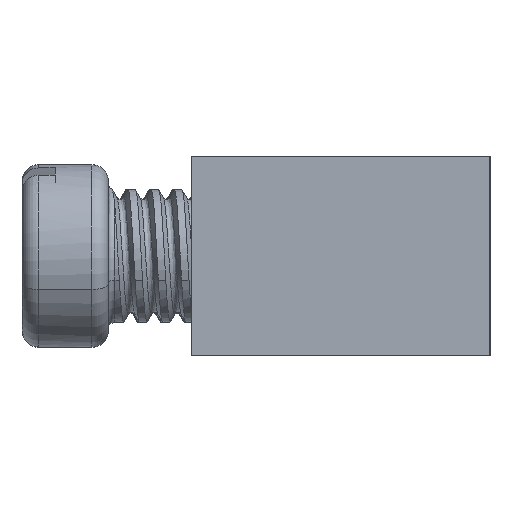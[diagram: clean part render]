
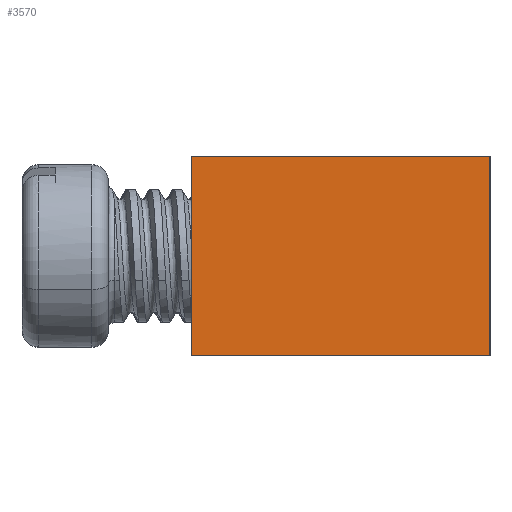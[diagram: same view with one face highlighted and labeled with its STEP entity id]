
A CAD part, left-side view. The second image highlights one B-rep face of the part: STEP entity #3570.
In plain terms, the highlighted planar face has unit normal (-1, 0, 0).
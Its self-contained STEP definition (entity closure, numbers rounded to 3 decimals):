
#140 = ORIENTED_EDGE ( 'NONE', *, *, #2012, .T. ) ;
#498 = VERTEX_POINT ( 'NONE', #5495 ) ;
#539 = CARTESIAN_POINT ( 'NONE',  ( 0., 9., -6. ) ) ;
#1386 = ORIENTED_EDGE ( 'NONE', *, *, #5901, .T. ) ;
#1826 = DIRECTION ( 'NONE',  ( 0., 0., 1. ) ) ;
#2012 = EDGE_CURVE ( 'NONE', #3413, #3670, #7014, .T. ) ;
#2273 = CARTESIAN_POINT ( 'NONE',  ( 0., 0., -6. ) ) ;
#2599 = CARTESIAN_POINT ( 'NONE',  ( 0., 0., -6. ) ) ;
#2646 = DIRECTION ( 'NONE',  ( 0., -1., 0. ) ) ;
#3367 = CARTESIAN_POINT ( 'NONE',  ( 0., 9., -6. ) ) ;
#3413 = VERTEX_POINT ( 'NONE', #539 ) ;
#3570 = ADVANCED_FACE ( 'NONE', ( #8532 ), #3809, .T. ) ;
#3601 = VECTOR ( 'NONE', #8678, 1000. ) ;
#3670 = VERTEX_POINT ( 'NONE', #9227 ) ;
#3744 = ORIENTED_EDGE ( 'NONE', *, *, #7999, .F. ) ;
#3809 = PLANE ( 'NONE',  #9815 ) ;
#4122 = EDGE_CURVE ( 'NONE', #5579, #498, #8524, .T. ) ;
#4468 = VECTOR ( 'NONE', #9075, 1000. ) ;
#4519 = VECTOR ( 'NONE', #1826, 1000. ) ;
#4567 = DIRECTION ( 'NONE',  ( -1., 0., 0. ) ) ;
#5495 = CARTESIAN_POINT ( 'NONE',  ( 0., 0., 0. ) ) ;
#5579 = VERTEX_POINT ( 'NONE', #9694 ) ;
#5901 = EDGE_CURVE ( 'NONE', #3670, #498, #9680, .T. ) ;
#6515 = CARTESIAN_POINT ( 'NONE',  ( 0., 0., -6. ) ) ;
#6768 = LINE ( 'NONE', #3367, #4519 ) ;
#7014 = LINE ( 'NONE', #6515, #8561 ) ;
#7600 = EDGE_LOOP ( 'NONE', ( #9127, #3744, #140, #1386 ) ) ;
#7999 = EDGE_CURVE ( 'NONE', #3413, #5579, #6768, .T. ) ;
#8343 = CARTESIAN_POINT ( 'NONE',  ( 0., 0., 0. ) ) ;
#8524 = LINE ( 'NONE', #8343, #4468 ) ;
#8532 = FACE_OUTER_BOUND ( 'NONE', #7600, .T. ) ;
#8561 = VECTOR ( 'NONE', #2646, 1000. ) ;
#8678 = DIRECTION ( 'NONE',  ( 0., 0., 1. ) ) ;
#9075 = DIRECTION ( 'NONE',  ( 0., -1., 0. ) ) ;
#9127 = ORIENTED_EDGE ( 'NONE', *, *, #4122, .F. ) ;
#9227 = CARTESIAN_POINT ( 'NONE',  ( 0., 0., -6. ) ) ;
#9680 = LINE ( 'NONE', #2599, #3601 ) ;
#9694 = CARTESIAN_POINT ( 'NONE',  ( 0., 9., 0. ) ) ;
#9815 = AXIS2_PLACEMENT_3D ( 'NONE', #2273, #4567, #9897 ) ;
#9897 = DIRECTION ( 'NONE',  ( 0., 0., 1. ) ) ;
